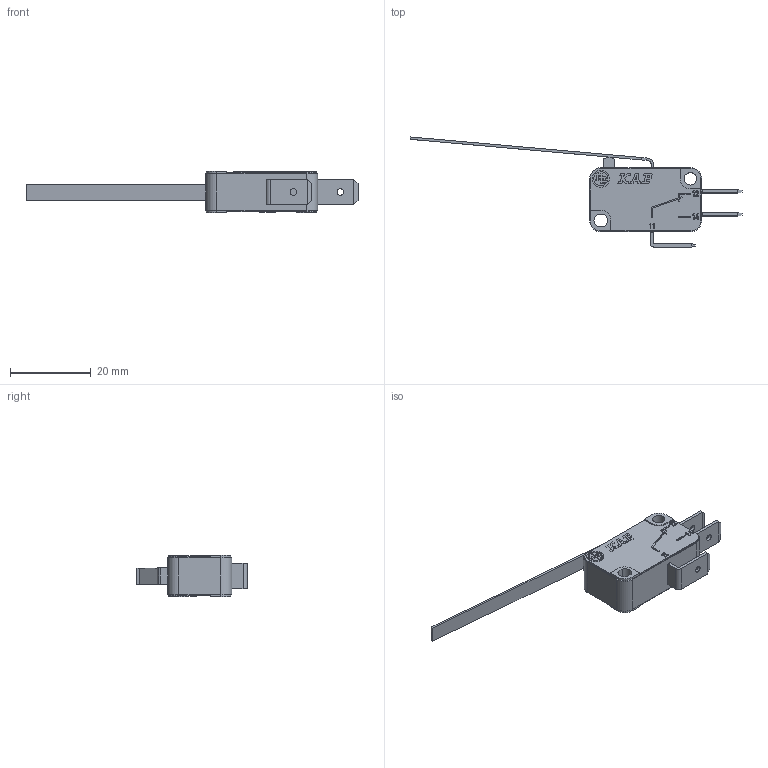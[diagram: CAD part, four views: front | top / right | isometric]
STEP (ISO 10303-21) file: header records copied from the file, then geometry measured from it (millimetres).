
FILE_DESCRIPTION(('Microrutor Miniat Alavanca Rigida Plana'),'2;1');
FILE_NAME('E:\WorkFolder\Bibl\3DWeb\kp_mv_mv$g7fa$_step.stp','2011-05-18T15:49:45',('DIE'),('KAP'),'Autodesk Inventor 2011','Autodesk Inventor 2011','Direitos reservados. Proibido reproducao, cedencia ou revelacao de conteudo a terceiros, salvo com autorizacao.');
FILE_SCHEMA(('AUTOMOTIVE_DESIGN { 1 0 10303 214 1 1 1 1 }'));
Length unit declared in the file: millimetre
Products named in the file (1): Part7
Bounding box: 82.31 x 27.29 x 10.3 mm (x, y, z)
Volume: 4413 mm3; surface area: 2994 mm2
Topology: 1 solids, 1 shells, 372 faces, 1000 edges, 664 vertices
Faces by surface type: plane 314, cylinder 58
Full cylindrical faces by diameter (mm): 1.6 x3, 3.1 x1, 4.2 x1
Entity records: 11869 total; most frequent: CARTESIAN_POINT 2025, ORIENTED_EDGE 1984, DIRECTION 1854, EDGE_CURVE 992, VECTOR 876, LINE 876, VERTEX_POINT 660, AXIS2_PLACEMENT_3D 489
